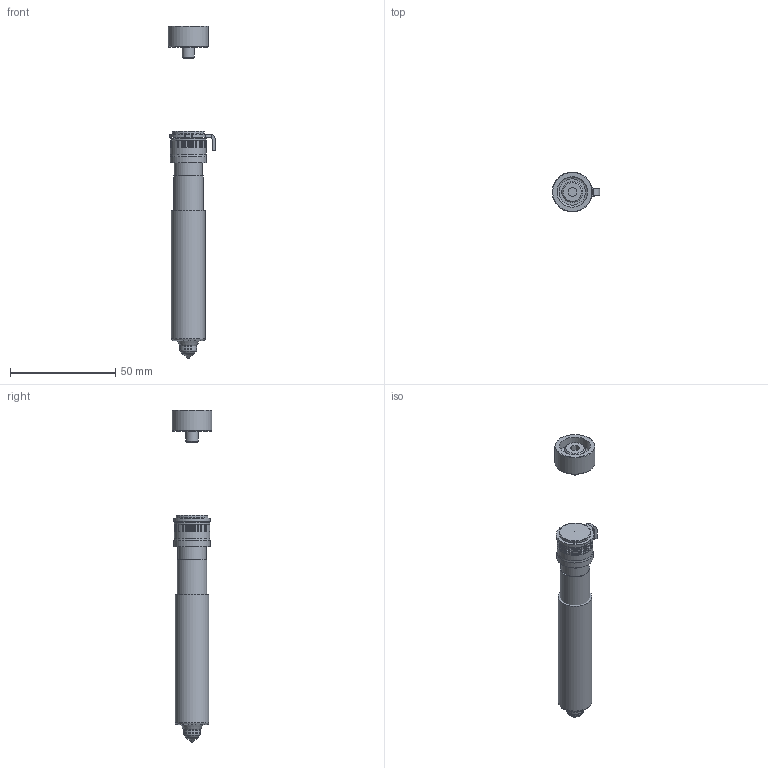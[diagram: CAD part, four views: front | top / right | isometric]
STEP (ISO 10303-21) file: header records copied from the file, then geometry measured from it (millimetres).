
FILE_DESCRIPTION(/* description */ (''),/* implementation_level */ '2;1');
FILE_NAME(/* name */ 'U350 HT-D.stp',/* time_stamp */ '2021-12-23T14:02:18+08:00',/* author */ (''),/* organization */ (''),/* preprocessor_version */ 'ST-DEVELOPER v16',/* originating_system */ 'SIEMENS PLM Software NX 11.0',/* authorisation */ '');
FILE_SCHEMA (('AUTOMOTIVE_DESIGN { 1 0 10303 214 3 1 1 1 }'));
Length unit declared in the file: millimetre
Products named in the file (12): 3D_EXPORT_3D_ASSY_11315467_0_id64_x_t; 3D_EXPORT_3D_ASSY_11315467_0_id59_x_t; 3D_EXPORT_3D_ASSY_11315467_0_id52_x_t; 3D_EXPORT_3D_ASSY_11315467_0_id47_x_t; 3D_EXPORT_3D_ASSY_11315467_0_id42_x_t; 3D_EXPORT_3D_ASSY_11315467_0_id31_x_t; 3D_EXPORT_3D_ASSY_11315467_0_id26_x_t; 3D_EXPORT_3D_ASSY_11315467_0_id21_x_t; 3D_EXPORT_3D_ASSY_11315467_0_id16_x_t; 3D_EXPORT_3D_ASSY_11315467_0_id11_x_t; 3D_EXPORT_3D_ASSY_11315467_0_id6_x_t; 3D_EXPORT_3D_ASSY_11315467_0_x_t
Assembly tree (15 placements, depth 2):
  3D_EXPORT_3D_ASSY_11315467_0_x_t
    3D_EXPORT_3D_ASSY_11315467_0_id6_x_t
    3D_EXPORT_3D_ASSY_11315467_0_id11_x_t
    3D_EXPORT_3D_ASSY_11315467_0_id16_x_t
    3D_EXPORT_3D_ASSY_11315467_0_id21_x_t
    3D_EXPORT_3D_ASSY_11315467_0_id26_x_t
    3D_EXPORT_3D_ASSY_11315467_0_id31_x_t  x4
    3D_EXPORT_3D_ASSY_11315467_0_id42_x_t
    3D_EXPORT_3D_ASSY_11315467_0_id47_x_t
    3D_EXPORT_3D_ASSY_11315467_0_id52_x_t  x2
    3D_EXPORT_3D_ASSY_11315467_0_id59_x_t
    3D_EXPORT_3D_ASSY_11315467_0_id64_x_t
Bounding box: 22.46 x 18.93 x 157.6 mm (x, y, z)
Volume: 39411.1 mm3; surface area: 17783.7 mm2
Topology: 15 solids, 15 shells, 366 faces, 922 edges, 589 vertices
Faces by surface type: cylinder 163, plane 117, torus 51, cone 34, sphere 1
Full cylindrical faces by diameter (mm): 0.7 x1, 1.194 x1, 5.795 x1, 6 x1, 6.89 x1, 7.2 x1, 7.283 x1, 7.87 x1, 7.995 x1, 8 x2, 9.4 x1, 9.95 x1, 9.97 x2, 10 x2, 11.06 x1, 13.3 x2, 14 x1, 14.05 x1, 14.5 x1, 15 x1, 16 x1, 16.9 x4, 17 x1, 17.27 x1, 19 x1
Entity records: 12503 total; most frequent: CARTESIAN_POINT 2182, DIRECTION 1599, ORIENTED_EDGE 1492, EDGE_CURVE 746, AXIS2_PLACEMENT_3D 647, VERTEX_POINT 512, EDGE_LOOP 451, PRESENTATION_STYLE_ASSIGNMENT 349
